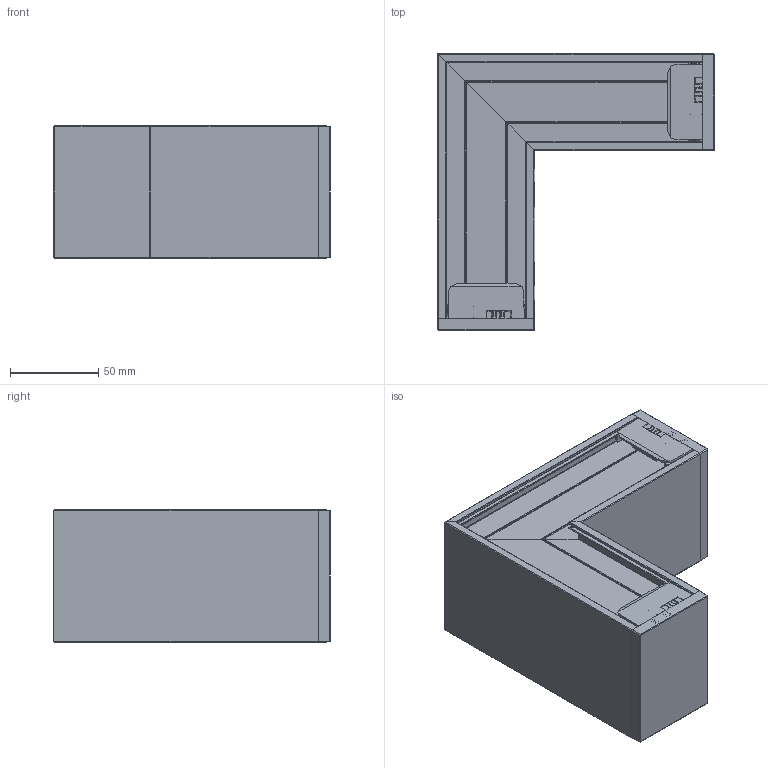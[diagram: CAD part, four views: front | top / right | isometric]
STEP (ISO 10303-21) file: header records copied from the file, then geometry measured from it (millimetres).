
FILE_DESCRIPTION(/* description */ (''),/* implementation_level */ '2;1');
FILE_NAME(/* name */ 'KISSL-~1',/* time_stamp */ '2026-04-27T15:56:12+02:00',/* author */ (''),/* organization */ (''),/* preprocessor_version */ 'ST-DEVELOPER v16.5',/* originating_system */ '',/* authorisation */ '');
FILE_SCHEMA (('AUTOMOTIVE_DESIGN'));
Products named in the file (1): Document
Bounding box: 156.74 x 156.74 x 75 mm (x, y, z)
Volume: 148677.7 mm3; surface area: 249736.8 mm2
Topology: 7 solids, 7 shells, 2210 faces, 6032 edges, 3836 vertices
Faces by surface type: bspline 2210
Entity records: 174580 total; most frequent: CARTESIAN_POINT 98694, B_SPLINE_CURVE_WITH_KNOTS 15854, ORIENTED_EDGE 12040, PCURVE 12040, DEFINITIONAL_REPRESENTATION 12040, SURFACE_CURVE 6020, EDGE_CURVE 6020, VERTEX_POINT 3836
